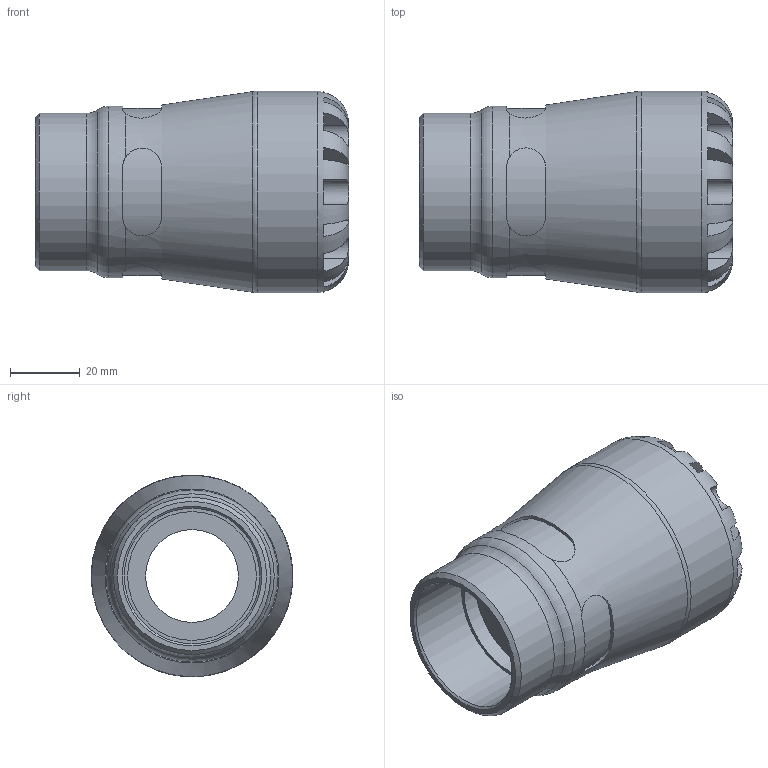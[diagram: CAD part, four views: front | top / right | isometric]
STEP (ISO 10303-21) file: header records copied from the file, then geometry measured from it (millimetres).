
FILE_DESCRIPTION(/* description */ ('PLASSON FEMALE ADAPTOR 32x1 1/4" SERIES 1'),/* implementation_level */ '2;1');
FILE_NAME(/* name */ 'C:\Dropbox\KIMPROJECTS-Inventor\99-16-3568-Processing\S1\27.01.19\1003G\1003G0032013_1903G0032013.ipt.stp',/* time_stamp */ '2019-01-27T09:12:07+02:00',/* author */ ('KIM'),/* organization */ (''),/* preprocessor_version */ 'ST-DEVELOPER v15.6',/* originating_system */ 'Autodesk Inventor 2015',/* authorisation */ '');
FILE_SCHEMA (('AUTOMOTIVE_DESIGN { 1 0 10303 214 3 1 1 }'));
Length unit declared in the file: millimetre
Products named in the file (1): 1003G0032013_1903G0032013
Bounding box: 90 x 58 x 58 mm (x, y, z)
Volume: 107264.3 mm3; surface area: 28339 mm2
Topology: 1 solids, 1 shells, 104 faces, 265 edges, 166 vertices
Faces by surface type: plane 61, cylinder 35, torus 5, cone 3
Full cylindrical faces by diameter (mm): 26.667 x1, 32 x1, 37.004 x1, 38.952 x1, 45.24 x1, 49.3 x1, 58 x1
Entity records: 3858 total; most frequent: CARTESIAN_POINT 1471, ORIENTED_EDGE 492, DIRECTION 478, EDGE_CURVE 246, AXIS2_PLACEMENT_3D 199, VERTEX_POINT 162, EDGE_LOOP 124, FACE_OUTER_BOUND 104
